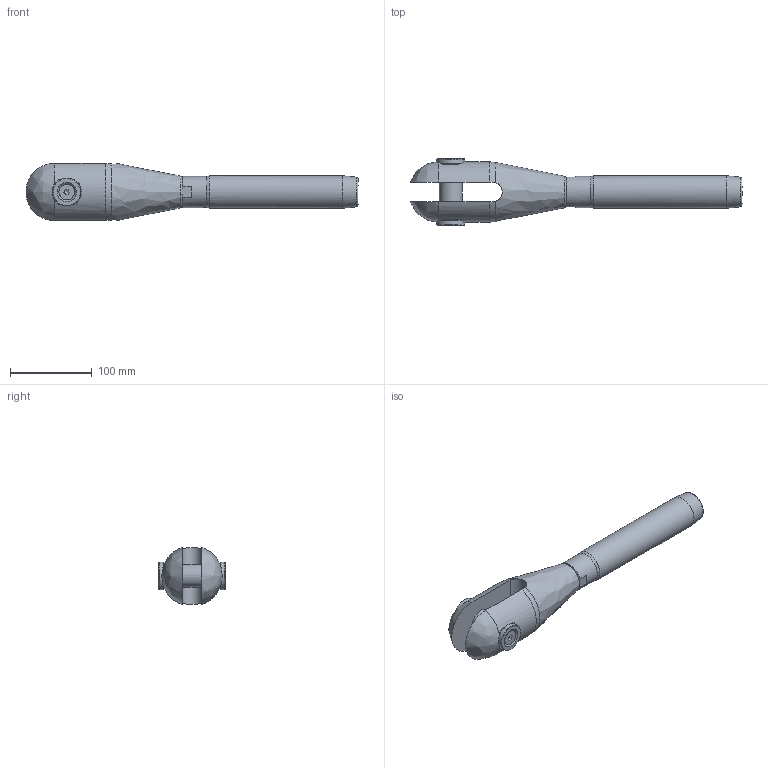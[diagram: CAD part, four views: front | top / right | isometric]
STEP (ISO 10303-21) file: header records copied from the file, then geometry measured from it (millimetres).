
FILE_DESCRIPTION(/* description */ (''),/* implementation_level */ '2;1');
FILE_NAME(/* name */ 'MAC-R 20_S355',/* time_stamp */ '2023-05-23T17:52:48+02:00',/* author */ (''),/* organization */ (''),/* preprocessor_version */ 'ST-DEVELOPER v16.5',/* originating_system */ 'Rhino 7.22',/* authorisation */ '');
FILE_SCHEMA (('CONFIG_CONTROL_DESIGN'));
Length unit declared in the file: millimetre
Products named in the file (1): Document
Bounding box: 406.99 x 81.65 x 70 mm (x, y, z)
Volume: 723549.4 mm3; surface area: 110824.7 mm2
Topology: 7 solids, 7 shells, 89 faces, 251 edges, 174 vertices
Faces by surface type: plane 37, bspline 28, cylinder 24
Full cylindrical faces by diameter (mm): 10 x2, 10.106 x2, 12.5 x2, 19.22 x2, 28 x1, 30 x2, 32.752 x1, 34 x2, 36 x1, 38.1 x1, 40 x1
Entity records: 3561 total; most frequent: CARTESIAN_POINT 1974, ORIENTED_EDGE 492, EDGE_CURVE 246, VERTEX_POINT 174, EDGE_LOOP 100, B_SPLINE_CURVE_WITH_KNOTS 99, ADVANCED_FACE 89, FACE_OUTER_BOUND 89
